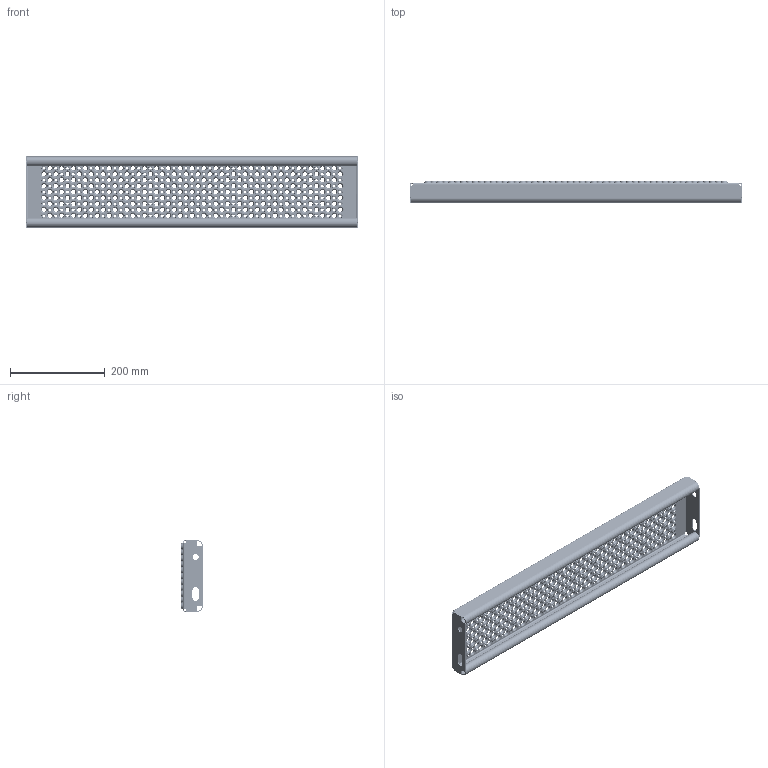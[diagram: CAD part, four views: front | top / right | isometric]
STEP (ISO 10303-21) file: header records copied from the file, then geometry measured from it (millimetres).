
FILE_DESCRIPTION (( 'STEP AP214' ), '1' );
FILE_NAME ('OPTIMO-Tread-Achil-O2-700x150x45x2-st240-F100020100.STEP', '2021-03-15T08:48:14', ( '' ), ( '' ), 'SwSTEP 2.0', 'SolidWorks 2021', '' );
FILE_SCHEMA (( 'AUTOMOTIVE_DESIGN' ));
Products named in the file (1): OPTIMO-Tread-Achil-O2-700x150x45x2-st240-F100020100
Bounding box: 700 x 45 x 150 mm (x, y, z)
Volume: 447871.1 mm3; surface area: 479990.3 mm2
Topology: 1 solids, 1 shells, 5692 faces, 14786 edges, 9096 vertices
Faces by surface type: cone 3366, torus 2244, plane 38, cylinder 36, bspline 8
Entity records: 181312 total; most frequent: DIRECTION 37400, CARTESIAN_POINT 30167, ORIENTED_EDGE 29572, AXIS2_PLACEMENT_3D 16961, EDGE_CURVE 14786, CIRCLE 11276, VERTEX_POINT 9096, EDGE_LOOP 6822
